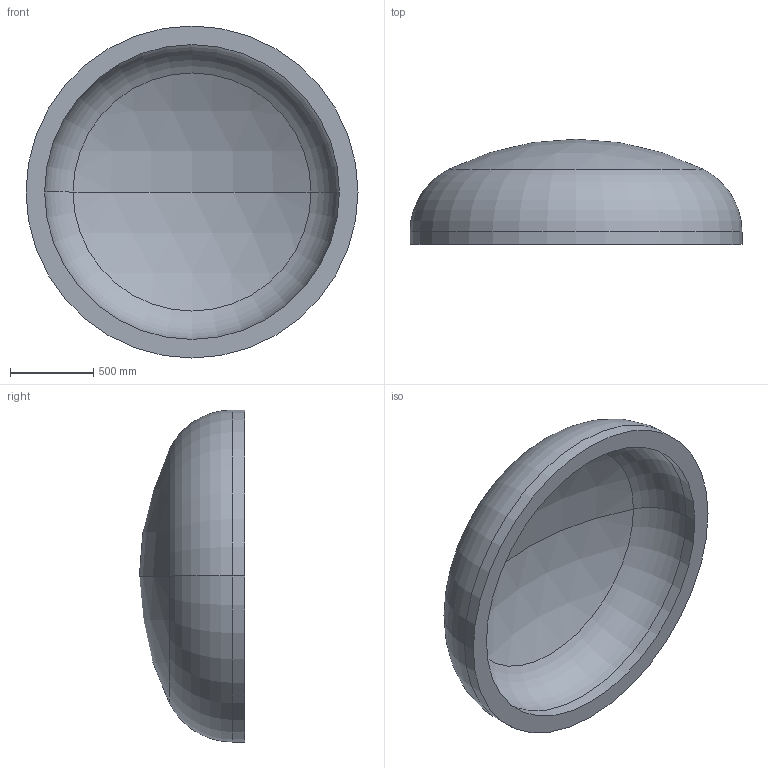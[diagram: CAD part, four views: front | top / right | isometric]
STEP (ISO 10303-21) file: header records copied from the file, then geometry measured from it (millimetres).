
FILE_DESCRIPTION (( 'STEP AP203' ), '1' );
FILE_NAME ('DIN 28013 Korbbogenform_-_Boden DIN 28013 - 2000 x 75 - I - s=112.step', '2016-07-01T14:12:26', ( '' ), ( '' ), 'SwSTEP 2.0', 'SolidWorks 2013', '' );
FILE_SCHEMA (( 'CONFIG_CONTROL_DESIGN' ));
Length unit declared in the file: millimetre
Products named in the file (1): DIN 28013 Korbbogenform_-_Boden DIN 28013 - 2000 x 75 - I - s=112
Bounding box: 2000 x 633.74 x 2000 mm (x, y, z)
Volume: 504070421.6 mm3; surface area: 9691835.8 mm2
Topology: 1 solids, 1 shells, 13 faces, 24 edges, 14 vertices
Faces by surface type: torus 4, cylinder 4, sphere 4, plane 1
Entity records: 407 total; most frequent: DIRECTION 72, CARTESIAN_POINT 52, ORIENTED_EDGE 48, AXIS2_PLACEMENT_3D 34, EDGE_CURVE 24, CIRCLE 20, EDGE_LOOP 14, VERTEX_POINT 14
